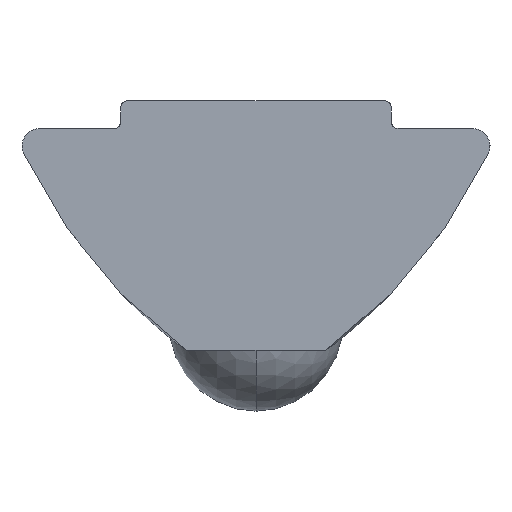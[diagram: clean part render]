
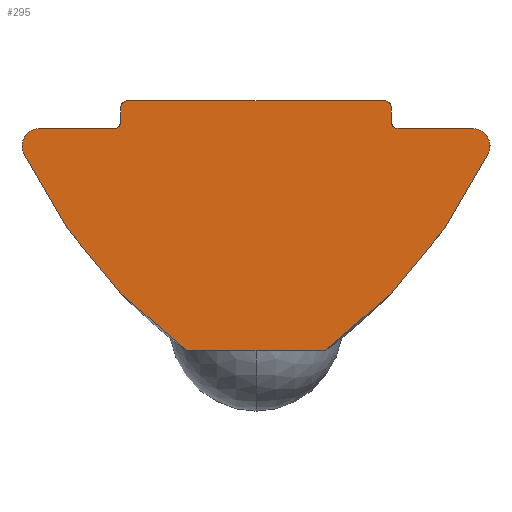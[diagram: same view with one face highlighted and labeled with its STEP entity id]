
A CAD part, left-side view. The second image highlights one B-rep face of the part: STEP entity #295.
In plain terms, the highlighted planar face has unit normal (-1, 0, 0).
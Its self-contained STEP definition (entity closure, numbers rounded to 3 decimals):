
#2 = CARTESIAN_POINT ( 'NONE',  ( -7.5, -3.7, 0. ) ) ;
#25 = CARTESIAN_POINT ( 'NONE',  ( -7.5, -2.001, -7.2 ) ) ;
#33 = ORIENTED_EDGE ( 'NONE', *, *, #245, .F. ) ;
#51 = VERTEX_POINT ( 'NONE', #2 ) ;
#58 = CARTESIAN_POINT ( 'NONE',  ( -7.5, 6.245, -1.305 ) ) ;
#76 = EDGE_CURVE ( 'NONE', #1020, #1039, #401, .T. ) ;
#79 = DIRECTION ( 'NONE',  ( 0., -1., 0. ) ) ;
#95 = VERTEX_POINT ( 'NONE', #291 ) ;
#119 = VERTEX_POINT ( 'NONE', #675 ) ;
#122 = CARTESIAN_POINT ( 'NONE',  ( -7.5, -6.245, -1.305 ) ) ;
#131 = EDGE_CURVE ( 'NONE', #1005, #377, #673, .T. ) ;
#137 = DIRECTION ( 'NONE',  ( 0., 0., -1. ) ) ;
#141 = DIRECTION ( 'NONE',  ( 0., 1., 0. ) ) ;
#162 = CIRCLE ( 'NONE', #940, 0.2 ) ;
#163 = LINE ( 'NONE', #629, #725 ) ;
#165 = ORIENTED_EDGE ( 'NONE', *, *, #76, .T. ) ;
#172 = LINE ( 'NONE', #939, #1037 ) ;
#194 = CARTESIAN_POINT ( 'NONE',  ( -7.5, -3.7, -0.2 ) ) ;
#199 = DIRECTION ( 'NONE',  ( 1., 0., 0. ) ) ;
#224 = ORIENTED_EDGE ( 'NONE', *, *, #1121, .F. ) ;
#236 = VECTOR ( 'NONE', #957, 1000. ) ;
#238 = CARTESIAN_POINT ( 'NONE',  ( -7.5, -4.1, -0.8 ) ) ;
#245 = EDGE_CURVE ( 'NONE', #95, #1005, #520, .T. ) ;
#291 = CARTESIAN_POINT ( 'NONE',  ( -7.5, -4.1, -0.8 ) ) ;
#295 = ADVANCED_FACE ( 'NONE', ( #692 ), #887, .F. ) ;
#301 = LINE ( 'NONE', #482, #236 ) ;
#310 = ORIENTED_EDGE ( 'NONE', *, *, #1147, .F. ) ;
#313 = DIRECTION ( 'NONE',  ( 0., 0., -1. ) ) ;
#316 = AXIS2_PLACEMENT_3D ( 'NONE', #403, #1175, #313 ) ;
#324 = CARTESIAN_POINT ( 'NONE',  ( -7.5, 6.701, -1.522 ) ) ;
#330 = ORIENTED_EDGE ( 'NONE', *, *, #865, .F. ) ;
#343 = CARTESIAN_POINT ( 'NONE',  ( -7.5, 3.9, -0.2 ) ) ;
#354 = DIRECTION ( 'NONE',  ( 0., 0., -1. ) ) ;
#359 = AXIS2_PLACEMENT_3D ( 'NONE', #122, #587, #486 ) ;
#369 = EDGE_CURVE ( 'NONE', #1020, #468, #497, .T. ) ;
#377 = VERTEX_POINT ( 'NONE', #1170 ) ;
#388 = VERTEX_POINT ( 'NONE', #324 ) ;
#395 = CARTESIAN_POINT ( 'NONE',  ( -7.5, 4.1, -0.6 ) ) ;
#396 = CIRCLE ( 'NONE', #1109, 15. ) ;
#401 = CIRCLE ( 'NONE', #634, 0.2 ) ;
#402 = DIRECTION ( 'NONE',  ( 0., 0., -1. ) ) ;
#403 = CARTESIAN_POINT ( 'NONE',  ( -7.5, 3.7, -0.2 ) ) ;
#422 = VECTOR ( 'NONE', #1179, 1000. ) ;
#427 = EDGE_CURVE ( 'NONE', #95, #119, #459, .T. ) ;
#448 = ORIENTED_EDGE ( 'NONE', *, *, #131, .F. ) ;
#458 = DIRECTION ( 'NONE',  ( 0., 0., -1. ) ) ;
#459 = CIRCLE ( 'NONE', #562, 0.2 ) ;
#460 = ORIENTED_EDGE ( 'NONE', *, *, #369, .F. ) ;
#468 = VERTEX_POINT ( 'NONE', #343 ) ;
#482 = CARTESIAN_POINT ( 'NONE',  ( -7.5, -3.9, -0.2 ) ) ;
#485 = CARTESIAN_POINT ( 'NONE',  ( -7.5, 3.9, -0.6 ) ) ;
#486 = DIRECTION ( 'NONE',  ( 0., 0., -1. ) ) ;
#490 = DIRECTION ( 'NONE',  ( 0., 0., -1. ) ) ;
#497 = LINE ( 'NONE', #485, #422 ) ;
#506 = ORIENTED_EDGE ( 'NONE', *, *, #427, .T. ) ;
#520 = LINE ( 'NONE', #238, #851 ) ;
#537 = VERTEX_POINT ( 'NONE', #1019 ) ;
#547 = CARTESIAN_POINT ( 'NONE',  ( -7.5, 6.85, 4.91 ) ) ;
#548 = VERTEX_POINT ( 'NONE', #838 ) ;
#554 = VECTOR ( 'NONE', #1217, 1000. ) ;
#555 = EDGE_CURVE ( 'NONE', #388, #548, #945, .T. ) ;
#556 = EDGE_CURVE ( 'NONE', #1185, #388, #396, .T. ) ;
#562 = AXIS2_PLACEMENT_3D ( 'NONE', #637, #1200, #734 ) ;
#575 = AXIS2_PLACEMENT_3D ( 'NONE', #547, #1223, #458 ) ;
#587 = DIRECTION ( 'NONE',  ( 1., 0., 0. ) ) ;
#601 = ORIENTED_EDGE ( 'NONE', *, *, #555, .F. ) ;
#605 = CARTESIAN_POINT ( 'NONE',  ( -7.5, 2.001, -7.2 ) ) ;
#615 = EDGE_CURVE ( 'NONE', #377, #733, #744, .T. ) ;
#629 = CARTESIAN_POINT ( 'NONE',  ( -7.5, -2.001, -7.2 ) ) ;
#634 = AXIS2_PLACEMENT_3D ( 'NONE', #395, #701, #402 ) ;
#637 = CARTESIAN_POINT ( 'NONE',  ( -7.5, -4.1, -0.6 ) ) ;
#661 = LINE ( 'NONE', #1125, #554 ) ;
#673 = CIRCLE ( 'NONE', #359, 0.505 ) ;
#675 = CARTESIAN_POINT ( 'NONE',  ( -7.5, -3.9, -0.6 ) ) ;
#692 = FACE_OUTER_BOUND ( 'NONE', #873, .T. ) ;
#701 = DIRECTION ( 'NONE',  ( 1., 0., 0. ) ) ;
#705 = ORIENTED_EDGE ( 'NONE', *, *, #615, .F. ) ;
#725 = VECTOR ( 'NONE', #141, 1000. ) ;
#733 = VERTEX_POINT ( 'NONE', #25 ) ;
#734 = DIRECTION ( 'NONE',  ( 0., 0., -1. ) ) ;
#744 = CIRCLE ( 'NONE', #575, 15. ) ;
#783 = CARTESIAN_POINT ( 'NONE',  ( -7.5, 4.1, -0.8 ) ) ;
#788 = AXIS2_PLACEMENT_3D ( 'NONE', #58, #1208, #354 ) ;
#790 = DIRECTION ( 'NONE',  ( 0., 0., -1. ) ) ;
#821 = DIRECTION ( 'NONE',  ( 0., -1., 0. ) ) ;
#838 = CARTESIAN_POINT ( 'NONE',  ( -7.5, 6.245, -0.8 ) ) ;
#851 = VECTOR ( 'NONE', #821, 1000. ) ;
#857 = VERTEX_POINT ( 'NONE', #905 ) ;
#865 = EDGE_CURVE ( 'NONE', #733, #1185, #163, .T. ) ;
#873 = EDGE_LOOP ( 'NONE', ( #310, #460, #165, #881, #601, #886, #330, #705, #448, #33, #506, #914, #224, #1168 ) ) ;
#881 = ORIENTED_EDGE ( 'NONE', *, *, #1007, .F. ) ;
#882 = DIRECTION ( 'NONE',  ( 1., 0., 0. ) ) ;
#886 = ORIENTED_EDGE ( 'NONE', *, *, #556, .F. ) ;
#887 = PLANE ( 'NONE',  #1027 ) ;
#889 = CARTESIAN_POINT ( 'NONE',  ( -7.5, 3.9, -0.6 ) ) ;
#905 = CARTESIAN_POINT ( 'NONE',  ( -7.5, 3.7, 0. ) ) ;
#914 = ORIENTED_EDGE ( 'NONE', *, *, #1058, .F. ) ;
#939 = CARTESIAN_POINT ( 'NONE',  ( -7.5, 6.245, -0.8 ) ) ;
#940 = AXIS2_PLACEMENT_3D ( 'NONE', #194, #199, #790 ) ;
#945 = CIRCLE ( 'NONE', #788, 0.505 ) ;
#957 = DIRECTION ( 'NONE',  ( 0., 0., -1. ) ) ;
#964 = EDGE_CURVE ( 'NONE', #857, #51, #661, .T. ) ;
#1005 = VERTEX_POINT ( 'NONE', #1031 ) ;
#1007 = EDGE_CURVE ( 'NONE', #548, #1039, #172, .T. ) ;
#1019 = CARTESIAN_POINT ( 'NONE',  ( -7.5, -3.9, -0.2 ) ) ;
#1020 = VERTEX_POINT ( 'NONE', #889 ) ;
#1027 = AXIS2_PLACEMENT_3D ( 'NONE', #1163, #882, #490 ) ;
#1031 = CARTESIAN_POINT ( 'NONE',  ( -7.5, -6.245, -0.8 ) ) ;
#1037 = VECTOR ( 'NONE', #79, 1000. ) ;
#1039 = VERTEX_POINT ( 'NONE', #783 ) ;
#1058 = EDGE_CURVE ( 'NONE', #537, #119, #301, .T. ) ;
#1105 = CIRCLE ( 'NONE', #316, 0.2 ) ;
#1109 = AXIS2_PLACEMENT_3D ( 'NONE', #1195, #1213, #137 ) ;
#1121 = EDGE_CURVE ( 'NONE', #51, #537, #162, .T. ) ;
#1125 = CARTESIAN_POINT ( 'NONE',  ( -7.5, 3.7, 0. ) ) ;
#1147 = EDGE_CURVE ( 'NONE', #468, #857, #1105, .T. ) ;
#1163 = CARTESIAN_POINT ( 'NONE',  ( -7.5, 3.7, -0.2 ) ) ;
#1168 = ORIENTED_EDGE ( 'NONE', *, *, #964, .F. ) ;
#1170 = CARTESIAN_POINT ( 'NONE',  ( -7.5, -6.701, -1.522 ) ) ;
#1175 = DIRECTION ( 'NONE',  ( 1., 0., 0. ) ) ;
#1179 = DIRECTION ( 'NONE',  ( 0., 0., 1. ) ) ;
#1185 = VERTEX_POINT ( 'NONE', #605 ) ;
#1195 = CARTESIAN_POINT ( 'NONE',  ( -7.5, -6.85, 4.91 ) ) ;
#1200 = DIRECTION ( 'NONE',  ( 1., 0., 0. ) ) ;
#1208 = DIRECTION ( 'NONE',  ( 1., 0., 0. ) ) ;
#1213 = DIRECTION ( 'NONE',  ( 1., 0., 0. ) ) ;
#1217 = DIRECTION ( 'NONE',  ( 0., -1., 0. ) ) ;
#1223 = DIRECTION ( 'NONE',  ( 1., 0., 0. ) ) ;
